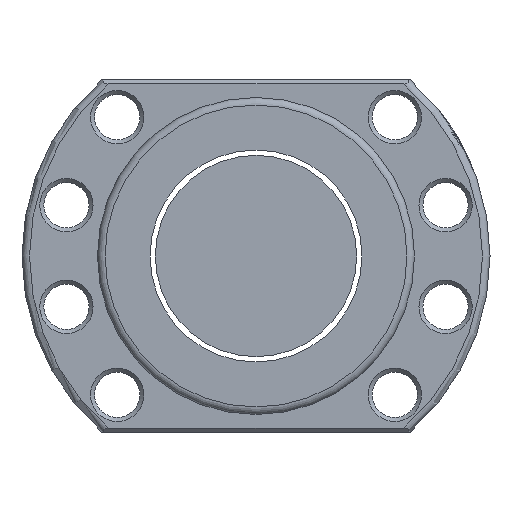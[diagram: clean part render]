
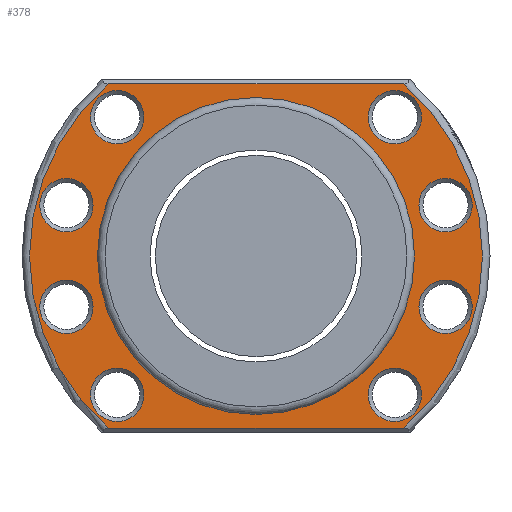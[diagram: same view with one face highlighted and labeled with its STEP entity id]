
A CAD part, left-side view. The second image highlights one B-rep face of the part: STEP entity #378.
In plain terms, the highlighted planar face has unit normal (-1, 0, 0).
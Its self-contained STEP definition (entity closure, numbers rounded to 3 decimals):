
#5 = DIRECTION ( 'NONE',  ( 1., 0., 0. ) ) ;
#53 = CIRCLE ( 'NONE', #1711, 5.3 ) ;
#106 = CIRCLE ( 'NONE', #2896, 5.3 ) ;
#109 = CIRCLE ( 'NONE', #3016, 45. ) ;
#162 = CIRCLE ( 'NONE', #967, 5.3 ) ;
#186 = CARTESIAN_POINT ( 'NONE',  ( -30., -37.671, 15.394 ) ) ;
#189 = DIRECTION ( 'NONE',  ( 0., 1., 0. ) ) ;
#194 = DIRECTION ( 'NONE',  ( 1., 0., 0. ) ) ;
#209 = DIRECTION ( 'NONE',  ( 1., 0., 0. ) ) ;
#222 = CIRCLE ( 'NONE', #3473, 5.3 ) ;
#233 = ORIENTED_EDGE ( 'NONE', *, *, #2711, .T. ) ;
#251 = FACE_OUTER_BOUND ( 'NONE', #2721, .T. ) ;
#268 = EDGE_CURVE ( 'NONE', #981, #981, #53, .T. ) ;
#286 = EDGE_LOOP ( 'NONE', ( #1071 ) ) ;
#307 = CIRCLE ( 'NONE', #3041, 5.3 ) ;
#328 = DIRECTION ( 'NONE',  ( 0., 0., -1. ) ) ;
#341 = LINE ( 'NONE', #2816, #645 ) ;
#348 = CARTESIAN_POINT ( 'NONE',  ( -30., 29.247, 34.2 ) ) ;
#378 = ADVANCED_FACE ( 'NONE', ( #1157, #536, #1382, #2236, #3327, #803, #2445, #2468, #2217, #251 ), #2694, .T. ) ;
#401 = DIRECTION ( 'NONE',  ( 1., 0., 0. ) ) ;
#416 = VECTOR ( 'NONE', #189, 1000. ) ;
#440 = EDGE_CURVE ( 'NONE', #1281, #1281, #106, .T. ) ;
#536 = FACE_BOUND ( 'NONE', #2034, .T. ) ;
#540 = EDGE_LOOP ( 'NONE', ( #2459 ) ) ;
#556 = DIRECTION ( 'NONE',  ( -1., 0., 0. ) ) ;
#563 = DIRECTION ( 'NONE',  ( -1., 0., 0. ) ) ;
#573 = CARTESIAN_POINT ( 'NONE',  ( -30., 27.577, 27.577 ) ) ;
#602 = DIRECTION ( 'NONE',  ( 0., 0., 1. ) ) ;
#614 = CARTESIAN_POINT ( 'NONE',  ( -30., -29.247, -34.2 ) ) ;
#645 = VECTOR ( 'NONE', #2537, 1000. ) ;
#657 = VERTEX_POINT ( 'NONE', #2832 ) ;
#693 = CARTESIAN_POINT ( 'NONE',  ( -30., 46.5, 34.2 ) ) ;
#719 = EDGE_CURVE ( 'NONE', #1515, #1515, #1303, .T. ) ;
#797 = ORIENTED_EDGE ( 'NONE', *, *, #268, .T. ) ;
#803 = FACE_BOUND ( 'NONE', #286, .T. ) ;
#820 = ORIENTED_EDGE ( 'NONE', *, *, #1457, .T. ) ;
#859 = EDGE_CURVE ( 'NONE', #657, #657, #162, .T. ) ;
#880 = DIRECTION ( 'NONE',  ( 0., 0., 1. ) ) ;
#904 = DIRECTION ( 'NONE',  ( 0., 0., 1. ) ) ;
#967 = AXIS2_PLACEMENT_3D ( 'NONE', #3162, #2325, #1831 ) ;
#971 = CARTESIAN_POINT ( 'NONE',  ( -30., 37.671, 10.094 ) ) ;
#981 = VERTEX_POINT ( 'NONE', #186 ) ;
#991 = EDGE_CURVE ( 'NONE', #1233, #1233, #2167, .T. ) ;
#999 = ORIENTED_EDGE ( 'NONE', *, *, #2642, .T. ) ;
#1015 = EDGE_LOOP ( 'NONE', ( #1331 ) ) ;
#1071 = ORIENTED_EDGE ( 'NONE', *, *, #440, .T. ) ;
#1074 = EDGE_LOOP ( 'NONE', ( #797 ) ) ;
#1122 = CARTESIAN_POINT ( 'NONE',  ( -30., 0., 0. ) ) ;
#1123 = EDGE_LOOP ( 'NONE', ( #1953 ) ) ;
#1157 = FACE_BOUND ( 'NONE', #3241, .T. ) ;
#1212 = AXIS2_PLACEMENT_3D ( 'NONE', #1122, #5, #328 ) ;
#1217 = CARTESIAN_POINT ( 'NONE',  ( -30., 27.577, 32.877 ) ) ;
#1233 = VERTEX_POINT ( 'NONE', #2053 ) ;
#1243 = DIRECTION ( 'NONE',  ( 0., 0., 1. ) ) ;
#1281 = VERTEX_POINT ( 'NONE', #1217 ) ;
#1303 = CIRCLE ( 'NONE', #1763, 5.3 ) ;
#1319 = ORIENTED_EDGE ( 'NONE', *, *, #2734, .T. ) ;
#1331 = ORIENTED_EDGE ( 'NONE', *, *, #991, .T. ) ;
#1382 = FACE_BOUND ( 'NONE', #1015, .T. ) ;
#1399 = ORIENTED_EDGE ( 'NONE', *, *, #859, .T. ) ;
#1457 = EDGE_CURVE ( 'NONE', #2955, #2883, #109, .T. ) ;
#1480 = AXIS2_PLACEMENT_3D ( 'NONE', #2595, #401, #1243 ) ;
#1515 = VERTEX_POINT ( 'NONE', #2850 ) ;
#1569 = VERTEX_POINT ( 'NONE', #2652 ) ;
#1669 = DIRECTION ( 'NONE',  ( 0., 0., 1. ) ) ;
#1711 = AXIS2_PLACEMENT_3D ( 'NONE', #1880, #209, #2391 ) ;
#1763 = AXIS2_PLACEMENT_3D ( 'NONE', #2209, #2797, #904 ) ;
#1828 = CARTESIAN_POINT ( 'NONE',  ( -30., 27.577, -27.577 ) ) ;
#1831 = DIRECTION ( 'NONE',  ( 0., 0., 1. ) ) ;
#1880 = CARTESIAN_POINT ( 'NONE',  ( -30., -37.671, 10.094 ) ) ;
#1884 = DIRECTION ( 'NONE',  ( 0., 0., 1. ) ) ;
#1903 = AXIS2_PLACEMENT_3D ( 'NONE', #3040, #2983, #1884 ) ;
#1912 = EDGE_CURVE ( 'NONE', #2139, #2139, #222, .T. ) ;
#1913 = ORIENTED_EDGE ( 'NONE', *, *, #2823, .T. ) ;
#1953 = ORIENTED_EDGE ( 'NONE', *, *, #719, .T. ) ;
#1971 = CARTESIAN_POINT ( 'NONE',  ( -30., -29.247, 34.2 ) ) ;
#1974 = DIRECTION ( 'NONE',  ( 0., 0., 1. ) ) ;
#2009 = CARTESIAN_POINT ( 'NONE',  ( -30., 29.247, -34.2 ) ) ;
#2034 = EDGE_LOOP ( 'NONE', ( #233 ) ) ;
#2053 = CARTESIAN_POINT ( 'NONE',  ( -30., -37.671, -4.794 ) ) ;
#2061 = DIRECTION ( 'NONE',  ( 1., 0., 0. ) ) ;
#2139 = VERTEX_POINT ( 'NONE', #2922 ) ;
#2167 = CIRCLE ( 'NONE', #1480, 5.3 ) ;
#2183 = DIRECTION ( 'NONE',  ( 1., 0., 0. ) ) ;
#2209 = CARTESIAN_POINT ( 'NONE',  ( -30., -27.577, 27.577 ) ) ;
#2217 = FACE_BOUND ( 'NONE', #2616, .T. ) ;
#2236 = FACE_BOUND ( 'NONE', #1074, .T. ) ;
#2277 = AXIS2_PLACEMENT_3D ( 'NONE', #3037, #556, #880 ) ;
#2278 = EDGE_CURVE ( 'NONE', #2365, #2955, #2637, .T. ) ;
#2325 = DIRECTION ( 'NONE',  ( 1., 0., 0. ) ) ;
#2347 = CIRCLE ( 'NONE', #1212, 31.5 ) ;
#2356 = EDGE_CURVE ( 'NONE', #2883, #2902, #341, .T. ) ;
#2365 = VERTEX_POINT ( 'NONE', #1971 ) ;
#2372 = DIRECTION ( 'NONE',  ( 0., 0., 1. ) ) ;
#2391 = DIRECTION ( 'NONE',  ( 0., 0., 1. ) ) ;
#2445 = FACE_BOUND ( 'NONE', #540, .T. ) ;
#2459 = ORIENTED_EDGE ( 'NONE', *, *, #1912, .T. ) ;
#2468 = FACE_BOUND ( 'NONE', #3245, .T. ) ;
#2473 = CIRCLE ( 'NONE', #1903, 45. ) ;
#2492 = CARTESIAN_POINT ( 'NONE',  ( -30., 0., 0. ) ) ;
#2532 = AXIS2_PLACEMENT_3D ( 'NONE', #3254, #3293, #1669 ) ;
#2537 = DIRECTION ( 'NONE',  ( 0., -1., 0. ) ) ;
#2595 = CARTESIAN_POINT ( 'NONE',  ( -30., -37.671, -10.094 ) ) ;
#2616 = EDGE_LOOP ( 'NONE', ( #1913 ) ) ;
#2637 = LINE ( 'NONE', #693, #416 ) ;
#2642 = EDGE_CURVE ( 'NONE', #2939, #2939, #307, .T. ) ;
#2652 = CARTESIAN_POINT ( 'NONE',  ( -30., -27.577, -22.277 ) ) ;
#2694 = PLANE ( 'NONE',  #2277 ) ;
#2711 = EDGE_CURVE ( 'NONE', #1569, #1569, #2758, .T. ) ;
#2721 = EDGE_LOOP ( 'NONE', ( #820, #2768, #1319, #3459 ) ) ;
#2734 = EDGE_CURVE ( 'NONE', #2902, #2365, #2473, .T. ) ;
#2758 = CIRCLE ( 'NONE', #2532, 5.3 ) ;
#2768 = ORIENTED_EDGE ( 'NONE', *, *, #2356, .T. ) ;
#2797 = DIRECTION ( 'NONE',  ( 1., 0., 0. ) ) ;
#2816 = CARTESIAN_POINT ( 'NONE',  ( -30., 46.5, -34.2 ) ) ;
#2823 = EDGE_CURVE ( 'NONE', #3225, #3225, #2347, .T. ) ;
#2832 = CARTESIAN_POINT ( 'NONE',  ( -30., 37.671, -4.794 ) ) ;
#2850 = CARTESIAN_POINT ( 'NONE',  ( -30., -27.577, 32.877 ) ) ;
#2883 = VERTEX_POINT ( 'NONE', #2009 ) ;
#2896 = AXIS2_PLACEMENT_3D ( 'NONE', #573, #2183, #1974 ) ;
#2902 = VERTEX_POINT ( 'NONE', #614 ) ;
#2922 = CARTESIAN_POINT ( 'NONE',  ( -30., 37.671, 15.394 ) ) ;
#2939 = VERTEX_POINT ( 'NONE', #3188 ) ;
#2955 = VERTEX_POINT ( 'NONE', #348 ) ;
#2983 = DIRECTION ( 'NONE',  ( -1., 0., 0. ) ) ;
#3002 = DIRECTION ( 'NONE',  ( 0., 0., 1. ) ) ;
#3016 = AXIS2_PLACEMENT_3D ( 'NONE', #2492, #563, #602 ) ;
#3037 = CARTESIAN_POINT ( 'NONE',  ( -30., 46.5, 0. ) ) ;
#3040 = CARTESIAN_POINT ( 'NONE',  ( -30., 0., 0. ) ) ;
#3041 = AXIS2_PLACEMENT_3D ( 'NONE', #1828, #194, #2372 ) ;
#3162 = CARTESIAN_POINT ( 'NONE',  ( -30., 37.671, -10.094 ) ) ;
#3188 = CARTESIAN_POINT ( 'NONE',  ( -30., 27.577, -22.277 ) ) ;
#3208 = CARTESIAN_POINT ( 'NONE',  ( -30., 0., -31.5 ) ) ;
#3225 = VERTEX_POINT ( 'NONE', #3208 ) ;
#3241 = EDGE_LOOP ( 'NONE', ( #999 ) ) ;
#3245 = EDGE_LOOP ( 'NONE', ( #1399 ) ) ;
#3254 = CARTESIAN_POINT ( 'NONE',  ( -30., -27.577, -27.577 ) ) ;
#3293 = DIRECTION ( 'NONE',  ( 1., 0., 0. ) ) ;
#3327 = FACE_BOUND ( 'NONE', #1123, .T. ) ;
#3459 = ORIENTED_EDGE ( 'NONE', *, *, #2278, .T. ) ;
#3473 = AXIS2_PLACEMENT_3D ( 'NONE', #971, #2061, #3002 ) ;
